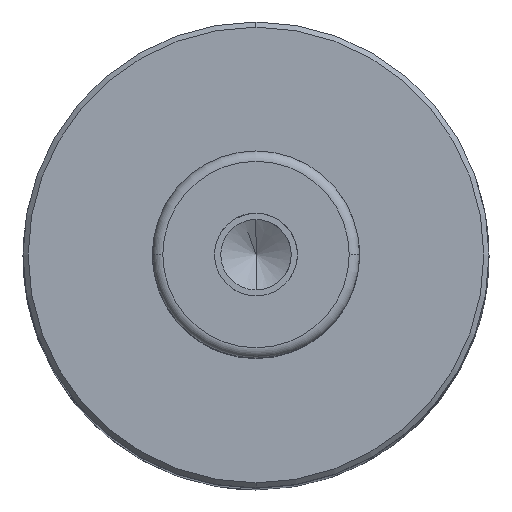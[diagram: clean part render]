
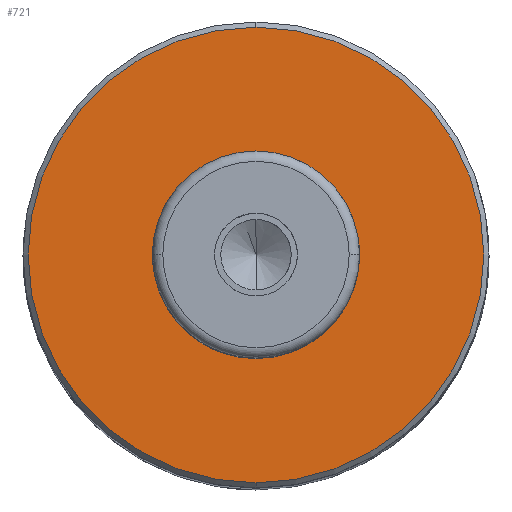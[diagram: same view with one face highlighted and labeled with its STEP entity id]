
A CAD part, top view. The second image highlights one B-rep face of the part: STEP entity #721.
In plain terms, the highlighted planar face has unit normal (0, 0, 1).
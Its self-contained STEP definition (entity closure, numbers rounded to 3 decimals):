
#400=CARTESIAN_POINT('Vertex',(0.,22.,108.)) ;
#407=CARTESIAN_POINT('Vertex',(0.,-22.,108.)) ;
#410=CARTESIAN_POINT('Axis2P3D Location',(0.,0.,108.)) ;
#427=CARTESIAN_POINT('Axis2P3D Location',(0.,0.,108.)) ;
#652=CARTESIAN_POINT('Axis2P3D Location',(0.,16.,108.)) ;
#662=CARTESIAN_POINT('Control Point',(0.,10.,108.)) ;
#663=CARTESIAN_POINT('Control Point',(-0.93,10.,108.)) ;
#664=CARTESIAN_POINT('Control Point',(-1.859,9.892,108.)) ;
#665=CARTESIAN_POINT('Control Point',(-2.772,9.676,108.)) ;
#666=CARTESIAN_POINT('Control Point',(-4.53,9.036,108.)) ;
#667=CARTESIAN_POINT('Control Point',(-6.095,8.01,108.)) ;
#668=CARTESIAN_POINT('Control Point',(-6.815,7.407,108.)) ;
#669=CARTESIAN_POINT('Control Point',(-8.1,6.047,108.)) ;
#670=CARTESIAN_POINT('Control Point',(-9.039,4.428,108.)) ;
#671=CARTESIAN_POINT('Control Point',(-9.412,3.567,108.)) ;
#672=CARTESIAN_POINT('Control Point',(-9.951,1.775,108.)) ;
#673=CARTESIAN_POINT('Control Point',(-10.065,-0.093,108.)) ;
#674=CARTESIAN_POINT('Control Point',(-10.012,-1.03,108.)) ;
#675=CARTESIAN_POINT('Control Point',(-9.691,-2.873,108.)) ;
#676=CARTESIAN_POINT('Control Point',(-8.955,-4.594,108.)) ;
#677=CARTESIAN_POINT('Control Point',(-8.489,-5.408,108.)) ;
#678=CARTESIAN_POINT('Control Point',(-7.375,-6.912,108.)) ;
#679=CARTESIAN_POINT('Control Point',(-5.946,-8.121,108.)) ;
#680=CARTESIAN_POINT('Control Point',(-5.165,-8.639,108.)) ;
#681=CARTESIAN_POINT('Control Point',(-3.696,-9.383,108.)) ;
#682=CARTESIAN_POINT('Control Point',(-2.111,-9.813,108.)) ;
#683=CARTESIAN_POINT('Control Point',(-1.412,-9.938,108.)) ;
#684=CARTESIAN_POINT('Control Point',(-0.706,-10.,108.)) ;
#685=CARTESIAN_POINT('Control Point',(0.,-10.,108.)) ;
#686=CARTESIAN_POINT('Vertex',(0.,10.,108.)) ;
#688=CARTESIAN_POINT('Vertex',(0.,-10.,108.)) ;
#692=CARTESIAN_POINT('Control Point',(0.,-10.,108.)) ;
#693=CARTESIAN_POINT('Control Point',(0.93,-10.,108.)) ;
#694=CARTESIAN_POINT('Control Point',(1.859,-9.892,108.)) ;
#695=CARTESIAN_POINT('Control Point',(2.772,-9.676,108.)) ;
#696=CARTESIAN_POINT('Control Point',(4.53,-9.036,108.)) ;
#697=CARTESIAN_POINT('Control Point',(6.095,-8.01,108.)) ;
#698=CARTESIAN_POINT('Control Point',(6.815,-7.407,108.)) ;
#699=CARTESIAN_POINT('Control Point',(8.1,-6.047,108.)) ;
#700=CARTESIAN_POINT('Control Point',(9.039,-4.428,108.)) ;
#701=CARTESIAN_POINT('Control Point',(9.412,-3.567,108.)) ;
#702=CARTESIAN_POINT('Control Point',(9.951,-1.775,108.)) ;
#703=CARTESIAN_POINT('Control Point',(10.065,0.093,108.)) ;
#704=CARTESIAN_POINT('Control Point',(10.012,1.03,108.)) ;
#705=CARTESIAN_POINT('Control Point',(9.691,2.873,108.)) ;
#706=CARTESIAN_POINT('Control Point',(8.955,4.594,108.)) ;
#707=CARTESIAN_POINT('Control Point',(8.489,5.408,108.)) ;
#708=CARTESIAN_POINT('Control Point',(7.375,6.912,108.)) ;
#709=CARTESIAN_POINT('Control Point',(5.946,8.121,108.)) ;
#710=CARTESIAN_POINT('Control Point',(5.165,8.639,108.)) ;
#711=CARTESIAN_POINT('Control Point',(3.696,9.383,108.)) ;
#712=CARTESIAN_POINT('Control Point',(2.111,9.813,108.)) ;
#713=CARTESIAN_POINT('Control Point',(1.412,9.938,108.)) ;
#714=CARTESIAN_POINT('Control Point',(0.706,10.,108.)) ;
#715=CARTESIAN_POINT('Control Point',(0.,10.,108.)) ;
#411=DIRECTION('Axis2P3D Direction',(0.,0.,-1.)) ;
#428=DIRECTION('Axis2P3D Direction',(0.,0.,-1.)) ;
#653=DIRECTION('Axis2P3D Direction',(0.,0.,1.)) ;
#654=DIRECTION('Axis2P3D XDirection',(0.,1.,0.)) ;
#412=AXIS2_PLACEMENT_3D('Circle Axis2P3D',#410,#411,$) ;
#429=AXIS2_PLACEMENT_3D('Circle Axis2P3D',#427,#428,$) ;
#655=AXIS2_PLACEMENT_3D('Plane Axis2P3D',#652,#653,#654) ;
#658=ORIENTED_EDGE('',*,*,#414,.T.) ;
#659=ORIENTED_EDGE('',*,*,#431,.T.) ;
#718=ORIENTED_EDGE('',*,*,#690,.F.) ;
#719=ORIENTED_EDGE('',*,*,#716,.F.) ;
#720=FACE_BOUND('',#717,.T.) ;
#721=ADVANCED_FACE('',(#660,#720),#656,.T.) ;
#661=B_SPLINE_CURVE_WITH_KNOTS('',5,(#662,#663,#664,#665,#666,#667,#668,#669,#670,#671,#672,#673,#674,#675,#676,#677,#678,#679,#680,#681,#682,#683,#684,#685),.UNSPECIFIED.,.F.,.U.,(6,3,3,3,3,3,3,6),(0.,6.573,13.145,19.718,26.29,32.863,39.436,44.428),.UNSPECIFIED.) ;
#691=B_SPLINE_CURVE_WITH_KNOTS('',5,(#692,#693,#694,#695,#696,#697,#698,#699,#700,#701,#702,#703,#704,#705,#706,#707,#708,#709,#710,#711,#712,#713,#714,#715),.UNSPECIFIED.,.F.,.U.,(6,3,3,3,3,3,3,6),(0.,6.573,13.145,19.718,26.29,32.863,39.436,44.428),.UNSPECIFIED.) ;
#413=CIRCLE('generated circle',#412,22.) ;
#430=CIRCLE('generated circle',#429,22.) ;
#414=EDGE_CURVE('',#401,#408,#413,.F.) ;
#431=EDGE_CURVE('',#408,#401,#430,.F.) ;
#690=EDGE_CURVE('',#687,#689,#661,.T.) ;
#716=EDGE_CURVE('',#689,#687,#691,.T.) ;
#657=EDGE_LOOP('',(#658,#659)) ;
#717=EDGE_LOOP('',(#718,#719)) ;
#660=FACE_OUTER_BOUND('',#657,.T.) ;
#656=PLANE('Plane',#655) ;
#401=VERTEX_POINT('',#400) ;
#408=VERTEX_POINT('',#407) ;
#687=VERTEX_POINT('',#686) ;
#689=VERTEX_POINT('',#688) ;
